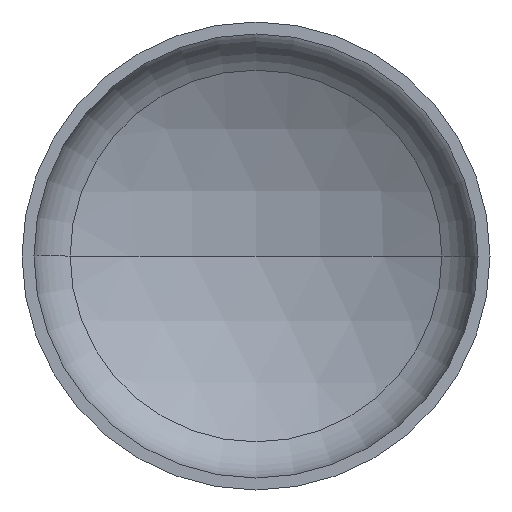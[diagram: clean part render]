
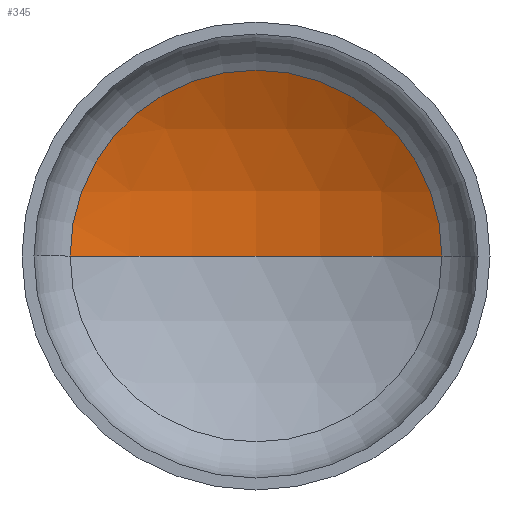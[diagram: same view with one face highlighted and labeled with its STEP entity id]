
A CAD part, front view. The second image highlights one B-rep face of the part: STEP entity #345.
In plain terms, the highlighted spherical face has radius 406 mm.
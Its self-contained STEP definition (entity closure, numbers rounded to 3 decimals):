
#3 = VERTEX_POINT ( 'NONE', #382 ) ;
#6 = VERTEX_POINT ( 'NONE', #297 ) ;
#9 = DIRECTION ( 'NONE',  ( 1., 0., 0. ) ) ;
#11 = DIRECTION ( 'NONE',  ( -1., 0., 0. ) ) ;
#15 = EDGE_LOOP ( 'NONE', ( #33, #123, #119 ) ) ;
#18 = DIRECTION ( 'NONE',  ( 0., 0., -1. ) ) ;
#21 = CARTESIAN_POINT ( 'NONE',  ( 0., -244.631, 0. ) ) ;
#33 = ORIENTED_EDGE ( 'NONE', *, *, #192, .F. ) ;
#51 = CARTESIAN_POINT ( 'NONE',  ( 0., -244.631, 0. ) ) ;
#90 = AXIS2_PLACEMENT_3D ( 'NONE', #124, #161, #159 ) ;
#105 = VERTEX_POINT ( 'NONE', #349 ) ;
#115 = AXIS2_PLACEMENT_3D ( 'NONE', #51, #331, #178 ) ;
#116 = SPHERICAL_SURFACE ( 'NONE', #90, 406. ) ;
#118 = AXIS2_PLACEMENT_3D ( 'NONE', #21, #18, #11 ) ;
#119 = ORIENTED_EDGE ( 'NONE', *, *, #186, .T. ) ;
#123 = ORIENTED_EDGE ( 'NONE', *, *, #190, .T. ) ;
#124 = CARTESIAN_POINT ( 'NONE',  ( 0., -244.631, 0. ) ) ;
#125 = AXIS2_PLACEMENT_3D ( 'NONE', #132, #368, #9 ) ;
#132 = CARTESIAN_POINT ( 'NONE',  ( 0., 107.687, 0. ) ) ;
#159 = DIRECTION ( 'NONE',  ( -1., 0., 0. ) ) ;
#161 = DIRECTION ( 'NONE',  ( 0., 0., -1. ) ) ;
#178 = DIRECTION ( 'NONE',  ( 1., 0., 0. ) ) ;
#186 = EDGE_CURVE ( 'NONE', #3, #105, #313, .T. ) ;
#190 = EDGE_CURVE ( 'NONE', #6, #3, #248, .T. ) ;
#192 = EDGE_CURVE ( 'NONE', #6, #105, #405, .T. ) ;
#223 = FACE_OUTER_BOUND ( 'NONE', #15, .T. ) ;
#248 = CIRCLE ( 'NONE', #118, 406. ) ;
#297 = CARTESIAN_POINT ( 'NONE',  ( 0., 161.369, 0. ) ) ;
#313 = CIRCLE ( 'NONE', #125, 201.762 ) ;
#331 = DIRECTION ( 'NONE',  ( 0., 0., 1. ) ) ;
#345 = ADVANCED_FACE ( 'NONE', ( #223 ), #116, .F. ) ;
#349 = CARTESIAN_POINT ( 'NONE',  ( -201.762, 107.687, 0. ) ) ;
#368 = DIRECTION ( 'NONE',  ( 0., -1., 0. ) ) ;
#382 = CARTESIAN_POINT ( 'NONE',  ( 201.762, 107.687, 0. ) ) ;
#405 = CIRCLE ( 'NONE', #115, 406. ) ;
